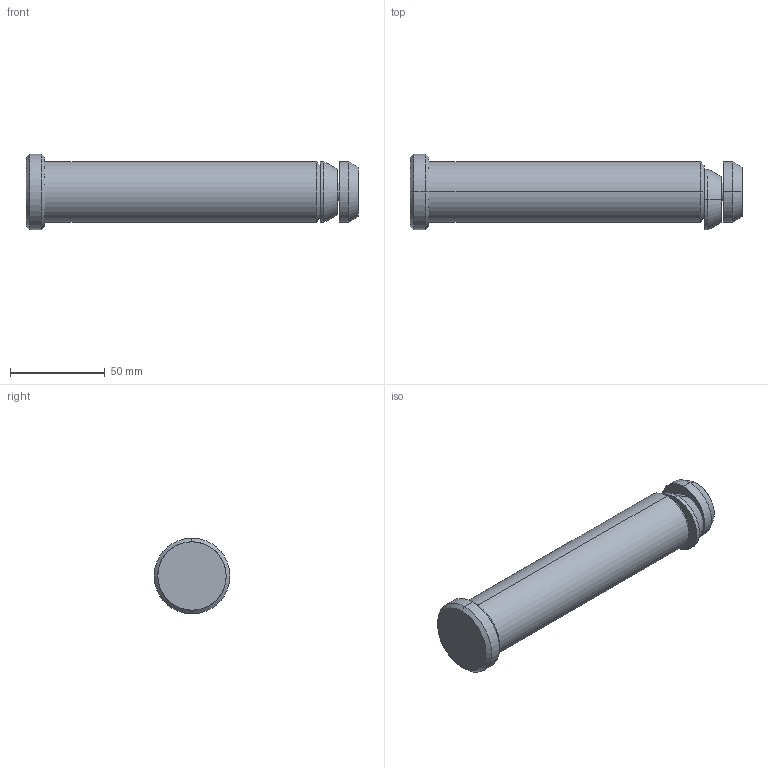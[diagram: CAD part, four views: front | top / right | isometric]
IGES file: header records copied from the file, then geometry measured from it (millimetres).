
Start section: START RECORD GO HERE.
Global section: file name: 395A-032-175.igs; native system: DASSAULT SYSTEMES CATIA V5 R20 - www.3ds.com; preprocessor: CATIA Version 5 Release 20 ; author: Utente; organization: NB04-ASUS; date: 20200409.142959; units: millimetre
Bounding box: 175 x 40 x 40 mm (x, y, z)
Surface area: 21337.6 mm2 (no closed solid volume)
Topology: 0 solids, 0 shells, 43 faces, 189 edges, 189 vertices
Faces by surface type: revolution 30, extrusion 13
